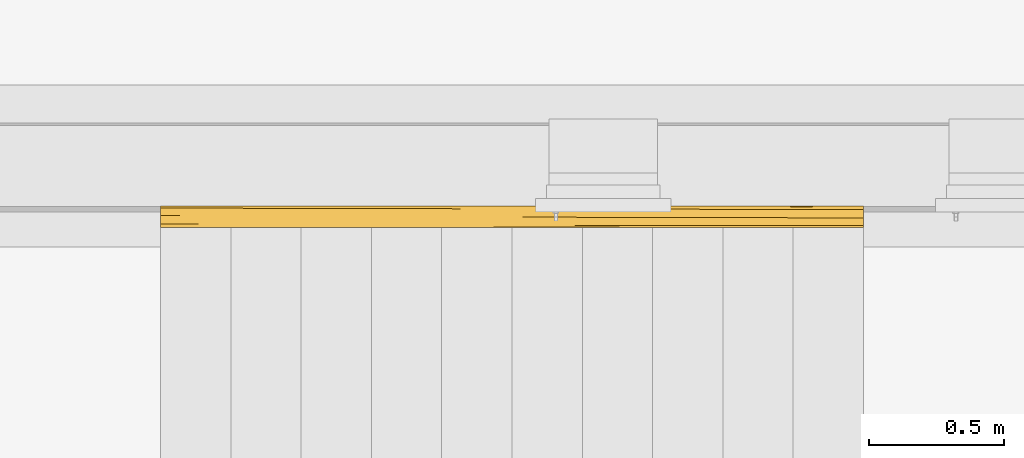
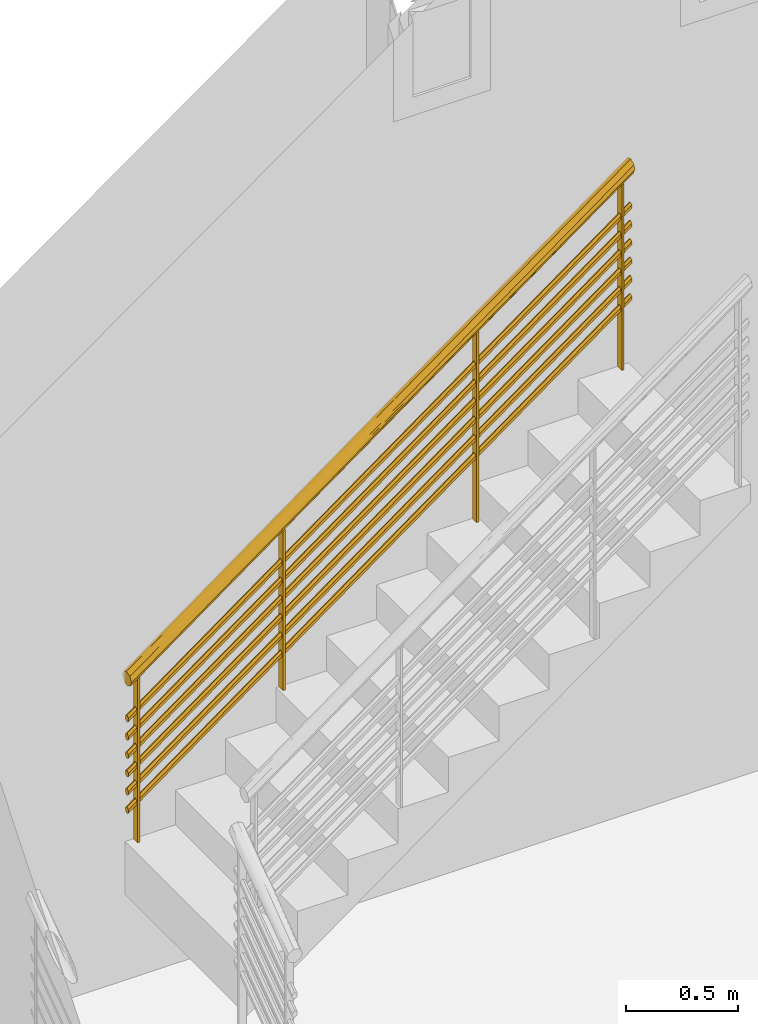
# One storey, part 18 of 20: 1 railing, 1 element without a shape of its own.
"""IFC2X3 building model written with IfcOpenShell, lengths in metres."""

import ifcopenshell
import ifcopenshell.guid

model = None  # the IFC model being written
_history = None  # IfcOwnerHistory: only IFC2X3 demands one
_inside = {}  # id of a spatial element -> (the spatial element, [elements in it])
_under = {}  # id of a project, library or spatial element -> (it, [spatial elements below it])
_declared = {}  # id of a project -> (the project, [libraries it declares])
_typed = {}  # id of a type object -> (the type object, [elements of that type])
_made_of = {}  # id of a material, layer set ... -> (it, [elements and type objects made of it])


def new_model(schema):
    """Start an empty IFC model of exactly this schema.

    Asked for "IFC4X3", IfcOpenShell would pick the latest addendum, in which some entities
    have other attributes; the version numbers below select the first issue.
    IFC2X3 requires an IfcOwnerHistory on every rooted entity: one is made here for all.
    """
    global model, _history
    if schema == "IFC4X3":
        model = ifcopenshell.file(schema_version=(4, 3, 0, 0))
    else:
        model = ifcopenshell.file(schema=schema)
    _inside.clear()
    _under.clear()
    _declared.clear()
    _typed.clear()
    _made_of.clear()
    _history = None
    if model.schema == "IFC2X3":
        org = make("IfcOrganization", Name="unknown")
        user = make(
            "IfcPersonAndOrganization",
            ThePerson=make("IfcPerson", FamilyName="unknown"),
            TheOrganization=org,
        )
        app = make(
            "IfcApplication",
            ApplicationDeveloper=org,
            Version="unknown",
            ApplicationFullName="unknown",
            ApplicationIdentifier="unknown",
        )
        _history = make(
            "IfcOwnerHistory",
            OwningUser=user,
            OwningApplication=app,
            ChangeAction="ADDED",
            CreationDate=0,
        )
    return model


def make(cls, **values):
    """One entity of the class cls with the attributes given. An attribute that is None is left unset."""
    return model.create_entity(
        cls, **{name: value for name, value in values.items() if value is not None}
    )


def entity(cls, *values):
    """Any entity or typed value of the class cls, its attributes in the order of the schema. None: left unset."""
    e = model.create_entity(cls)
    for i, value in enumerate(values):
        if value is not None:
            e[i] = value
    return e


def rooted(cls, **values):
    """An entity with a GlobalId (a new one), such as an element, a storey or a relation."""
    return make(cls, GlobalId=ifcopenshell.guid.new(), OwnerHistory=_history, **values)


def si_unit(unit_type, name, prefix=None):
    """IfcSIUnit, for example si_unit("LENGTHUNIT", "METRE", prefix="MILLI")."""
    return make("IfcSIUnit", UnitType=unit_type, Prefix=prefix, Name=name)


def converted_unit(unit_type, name, factor, base, dimensions=None, offset=None):
    """IfcConversionBasedUnit, such as the inch: factor (a typed value) times the base unit."""
    return make(
        "IfcConversionBasedUnit"
        if offset is None
        else "IfcConversionBasedUnitWithOffset",
        ConversionOffset=offset,
        Dimensions=None
        if dimensions is None
        else entity("IfcDimensionalExponents", *dimensions),
        UnitType=unit_type,
        Name=name,
        ConversionFactor=make(
            "IfcMeasureWithUnit", ValueComponent=factor, UnitComponent=base
        ),
    )


def derived_unit(unit_type, elements):
    """IfcDerivedUnit: a product of units, each with its exponent."""
    return make(
        "IfcDerivedUnit",
        Elements=[
            make("IfcDerivedUnitElement", Unit=unit, Exponent=power)
            for unit, power in elements
        ],
        UnitType=unit_type,
    )


def assignment(units):
    """IfcUnitAssignment: the units of a project."""
    return None if units is None else make("IfcUnitAssignment", Units=units)


def point(xyz):
    """IfcCartesianPoint."""
    return None if xyz is None else make("IfcCartesianPoint", Coordinates=xyz)


def direction(xyz):
    """IfcDirection."""
    return None if xyz is None else make("IfcDirection", DirectionRatios=xyz)


def frame(location, z_axis=None, x_axis=None):
    """IfcAxis2Placement3D, a coordinate frame: its origin and axes. An axis left out is left unset."""
    return make(
        "IfcAxis2Placement3D",
        Location=point(location),
        Axis=direction(z_axis),
        RefDirection=direction(x_axis),
    )


def origin():
    """The frame at (0, 0, 0) with its axes left unset."""
    return frame((0.0, 0.0, 0.0))


def place(relative_to, where):
    """IfcLocalPlacement: puts the frame where relative to a parent placement (None: the world)."""
    return make(
        "IfcLocalPlacement", PlacementRelTo=relative_to, RelativePlacement=where
    )


def context(
    kind, dimensions, precision=None, world=None, true_north=None, identifier=None
):
    """IfcGeometricRepresentationContext, for example the 3D "Model" context."""
    return make(
        "IfcGeometricRepresentationContext",
        ContextIdentifier=identifier,
        ContextType=kind,
        CoordinateSpaceDimension=dimensions,
        Precision=precision,
        WorldCoordinateSystem=world,
        TrueNorth=true_north,
    )


def subcontext(parent, identifier, kind, view, scale=None):
    """IfcGeometricRepresentationSubContext, for example "Body" below "Model"."""
    return make(
        "IfcGeometricRepresentationSubContext",
        ContextIdentifier=identifier,
        ContextType=kind,
        ParentContext=parent,
        TargetScale=scale,
        TargetView=view,
    )


def project(units=None, contexts=None):
    """IfcProject with its units and contexts."""
    return rooted(
        "IfcProject",
        Name="project",
        RepresentationContexts=contexts,
        UnitsInContext=assignment(units),
    )


def spatial(cls, under=None, at=None, **own):
    """A site, building, storey or space (cls), placed at a placement, below another one or the project."""
    s = rooted(cls, ObjectPlacement=at, **own)
    if under is not None:
        _under.setdefault(under.id(), (under, []))[1].append(s)
    return s


def faces_of(points, faces, orient=None, outer=None):
    """IfcFace entities. A face is a list of loops; a loop is a list of indices into points, from 0.

    orient and outer hold one flag for each loop. By default every Orientation is true, the
    first loop of a face is its IfcFaceOuterBound and the others are IfcFaceBound.
    """
    made = []
    for i, loops in enumerate(faces):
        bounds = []
        for j, loop in enumerate(loops):
            is_outer = j == 0 if outer is None else outer[i][j]
            bounds.append(
                make(
                    "IfcFaceOuterBound" if is_outer else "IfcFaceBound",
                    Bound=make("IfcPolyLoop", Polygon=[points[k] for k in loop]),
                    Orientation=True if orient is None else orient[i][j],
                )
            )
        made.append(make("IfcFace", Bounds=bounds))
    return made


def faceted_brep(points, faces, orient=None, outer=None, voids=None):
    """IfcFacetedBrep: a solid bounded by flat faces; with voids (closed shells), ...WithVoids."""
    shared = [point(p) for p in points]
    hull = make("IfcClosedShell", CfsFaces=faces_of(shared, faces, orient, outer))
    if voids is None:
        return make("IfcFacetedBrep", Outer=hull)
    return make(
        "IfcFacetedBrepWithVoids",
        Outer=hull,
        Voids=[
            make(cls, CfsFaces=faces_of(shared, fs, o, b)) for cls, fs, o, b in voids
        ],
    )


def shape(context_of_items, identifier, shape_type, items):
    """IfcShapeRepresentation: the items that make up one representation, for example the "Body"."""
    return make(
        "IfcShapeRepresentation",
        ContextOfItems=context_of_items,
        RepresentationIdentifier=identifier,
        RepresentationType=shape_type,
        Items=items,
    )


def made_of(thing, what):
    """Note that an element or type object is made of a material, layer set ...; save() writes the relation."""
    if what is not None:
        _made_of.setdefault(what.id(), (what, []))[1].append(thing)
    return thing


def element(
    cls,
    number,
    at=None,
    inside=None,
    cuts=None,
    type_object=None,
    material=None,
    context=None,
    identifier="Body",
    shape_type=None,
    held_by="IfcProductDefinitionShape",
    body=None,
    shapes=None,
    **own,
):
    """One element of the class cls, such as IfcWall. Its Tag is "e" and its number.

    at: its placement. inside: the storey or other place that contains it. cuts: it is an
    opening in that element (IfcRelVoidsElement). A single representation is given by context,
    identifier, shape_type and body (its items); several are given by shapes. held_by: the class
    of the entity that holds the representations. save() writes the other relations.
    """
    e = rooted(cls, Tag="e%d" % number, ObjectPlacement=at, **own)
    if body is not None:
        shapes = [shape(context, identifier, shape_type, body)]
    if shapes is not None:
        e.Representation = make(held_by, Representations=shapes)
    if inside is not None:
        _inside.setdefault(inside.id(), (inside, []))[1].append(e)
    if cuts is not None:
        rooted(
            "IfcRelVoidsElement", RelatingBuildingElement=cuts, RelatedOpeningElement=e
        )
    if type_object is not None:
        _typed.setdefault(type_object.id(), (type_object, []))[1].append(e)
    return made_of(e, material)


def aggregate(whole, parts):
    """IfcRelAggregates: a whole, such as a stair, and the parts it consists of."""
    return rooted("IfcRelAggregates", RelatingObject=whole, RelatedObjects=parts)


def save(model, path):
    """Write the relations noted so far, then the file.

    IfcRelAggregates (storeys below a building ...), IfcRelContainedInSpatialStructure (elements
    in a storey), IfcRelDefinesByType, IfcRelAssociatesMaterial and IfcRelDeclares: one each for
    every whole, place, type object, material and project.
    """
    for whole, parts in _under.values():
        aggregate(whole, parts)
    for where, things in _inside.values():
        rooted(
            "IfcRelContainedInSpatialStructure",
            RelatedElements=things,
            RelatingStructure=where,
        )
    for kind, things in _typed.values():
        rooted("IfcRelDefinesByType", RelatedObjects=things, RelatingType=kind)
    for what, things in _made_of.values():
        rooted("IfcRelAssociatesMaterial", RelatedObjects=things, RelatingMaterial=what)
    for by, libraries in _declared.values():
        rooted("IfcRelDeclares", RelatingContext=by, RelatedDefinitions=libraries)
    model.write(path)


model = new_model("IFC2X3")

# Units and contexts
model_context = context("Model", 3, precision=1e-05, world=origin(), true_north=direction((6.12303176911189e-17, 1.0)))
body_context = subcontext(model_context, "Body", "Model", "MODEL_VIEW")
ifc_project = project(units=[si_unit("LENGTHUNIT", "METRE"), si_unit("AREAUNIT", "SQUARE_METRE"), si_unit("VOLUMEUNIT", "CUBIC_METRE"), converted_unit("PLANEANGLEUNIT", "DEGREE", entity("IfcRatioMeasure", 0.0174532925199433), si_unit("PLANEANGLEUNIT", "RADIAN"), dimensions=[0, 0, 0, 0, 0, 0, 0]), si_unit("MASSUNIT", "GRAM", prefix="KILO"), derived_unit("MASSDENSITYUNIT", [(si_unit("MASSUNIT", "GRAM", prefix="KILO"), 1), (si_unit("LENGTHUNIT", "METRE"), -3)]), derived_unit("MOMENTOFINERTIAUNIT", [(si_unit("LENGTHUNIT", "METRE"), 4)]), si_unit("TIMEUNIT", "SECOND"), si_unit("FREQUENCYUNIT", "HERTZ"), si_unit("THERMODYNAMICTEMPERATUREUNIT", "DEGREE_CELSIUS"), derived_unit("THERMALTRANSMITTANCEUNIT", [(si_unit("MASSUNIT", "GRAM", prefix="KILO"), 1), (si_unit("THERMODYNAMICTEMPERATUREUNIT", "KELVIN"), -1), (si_unit("TIMEUNIT", "SECOND"), -3)]), derived_unit("VOLUMETRICFLOWRATEUNIT", [(si_unit("LENGTHUNIT", "METRE"), 3), (si_unit("TIMEUNIT", "SECOND"), -1)]), si_unit("ELECTRICCURRENTUNIT", "AMPERE"), si_unit("ELECTRICVOLTAGEUNIT", "VOLT"), si_unit("POWERUNIT", "WATT"), si_unit("FORCEUNIT", "NEWTON", prefix="KILO"), si_unit("ILLUMINANCEUNIT", "LUX"), si_unit("LUMINOUSFLUXUNIT", "LUMEN"), si_unit("LUMINOUSINTENSITYUNIT", "CANDELA"), derived_unit("USERDEFINED", [(si_unit("MASSUNIT", "GRAM", prefix="KILO"), -1), (si_unit("LENGTHUNIT", "METRE"), -2), (si_unit("TIMEUNIT", "SECOND"), 3), (si_unit("LUMINOUSFLUXUNIT", "LUMEN"), 1)]), derived_unit("LINEARVELOCITYUNIT", [(si_unit("LENGTHUNIT", "METRE"), 1), (si_unit("TIMEUNIT", "SECOND"), -1)]), si_unit("PRESSUREUNIT", "PASCAL"), derived_unit("USERDEFINED", [(si_unit("LENGTHUNIT", "METRE"), -2), (si_unit("MASSUNIT", "GRAM", prefix="KILO"), 1), (si_unit("TIMEUNIT", "SECOND"), -2)]), derived_unit("LINEARFORCEUNIT", [(si_unit("MASSUNIT", "GRAM", prefix="KILO"), 1), (si_unit("LENGTHUNIT", "METRE"), 1), (si_unit("TIMEUNIT", "SECOND"), -2), (si_unit("LENGTHUNIT", "METRE"), -1)]), derived_unit("PLANARFORCEUNIT", [(si_unit("MASSUNIT", "GRAM", prefix="KILO"), 1), (si_unit("LENGTHUNIT", "METRE"), 1), (si_unit("TIMEUNIT", "SECOND"), -2), (si_unit("LENGTHUNIT", "METRE"), -2)])], contexts=[model_context])

# Site, building, storey
site_placement = place(None, origin())
site = spatial("IfcSite", under=ifc_project, at=site_placement, Name="Surface", CompositionType="ELEMENT")
building_placement = place(site_placement, origin())
building = spatial("IfcBuilding", under=site, at=building_placement, CompositionType="ELEMENT")
storey_placement = place(building_placement, origin())
storey = spatial("IfcBuildingStorey", under=building, at=storey_placement, Name="Niveau rdc", CompositionType="ELEMENT", Elevation=-1.94916083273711e-14)

# Stair, railing
stair_placement = place(storey_placement, origin())
stair = element("IfcStair", 1, at=stair_placement, inside=storey, Name="Escalier coulé sur place:Escalier", ObjectType="Escalier coulé sur place:Monobloc", ShapeType="NOTDEFINED")
railing_placement = place(stair_placement, frame((2.97197986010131, 6.95024310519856, 0.757142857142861)))
railing = element("IfcRailing", 2, at=railing_placement, Name="Garde-corps:Type Bateau", ObjectType="Garde-corps:Type Bateau", PredefinedType="NOTDEFINED", context=body_context, shape_type="Brep", body=[
    faceted_brep([(0.793999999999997, 0.02159527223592, 1.44511960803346), (0.805999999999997, 0.02159527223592, 1.44511960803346), (0.805999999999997, 0.0615952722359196, 1.44511960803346), (0.793999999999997, 0.0615952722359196, 1.44511960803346), (0.793999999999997, 0.02159527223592, 0.567857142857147), (0.793999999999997, 0.0615952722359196, 0.567857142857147), (0.805999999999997, 0.0615952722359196, 0.567857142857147), (0.805999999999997, 0.02159527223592, 0.567857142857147)], [[[0, 1, 2, 3]], [[4, 5, 6, 7]], [[1, 0, 4, 7]], [[2, 1, 7, 6]], [[3, 2, 6, 5]], [[0, 3, 5, 4]]]),
    faceted_brep([(1.794, 0.0215952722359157, 2.17314158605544), (1.806, 0.0215952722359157, 2.17314158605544), (1.806, 0.0615952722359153, 2.17314158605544), (1.794, 0.0615952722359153, 2.17314158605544), (1.794, 0.0215952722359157, 1.13571428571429), (1.794, 0.0615952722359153, 1.13571428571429), (1.806, 0.0615952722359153, 1.13571428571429), (1.806, 0.0215952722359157, 1.13571428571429)], [[[0, 1, 2, 3]], [[4, 5, 6, 7]], [[1, 0, 4, 7]], [[2, 1, 7, 6]], [[3, 2, 6, 5]], [[0, 3, 5, 4]]]),
    faceted_brep([(0.0439999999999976, 0.0215952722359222, 0.899103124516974), (0.0559999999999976, 0.0215952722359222, 0.899103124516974), (0.0559999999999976, 0.0615952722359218, 0.899103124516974), (0.0439999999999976, 0.0615952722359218, 0.899103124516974), (0.0439999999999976, 0.0215952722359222, 0.0), (0.0439999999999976, 0.0615952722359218, 0.0), (0.0559999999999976, 0.0615952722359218, 0.0), (0.0559999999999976, 0.0215952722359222, 0.0)], [[[0, 1, 2, 3]], [[4, 5, 6, 7]], [[1, 0, 4, 7]], [[2, 1, 7, 6]], [[3, 2, 6, 5]], [[0, 3, 5, 4]]]),
    faceted_brep([(2.544, 0.0215952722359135, 2.71915806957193), (2.556, 0.0215952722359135, 2.71915806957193), (2.556, 0.0615952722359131, 2.71915806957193), (2.544, 0.0615952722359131, 2.71915806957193), (2.544, 0.0215952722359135, 1.70357142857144), (2.544, 0.0615952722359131, 1.70357142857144), (2.556, 0.0615952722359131, 1.70357142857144), (2.556, 0.0215952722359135, 1.70357142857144)], [[[0, 1, 2, 3]], [[4, 5, 6, 7]], [[1, 0, 4, 7]], [[2, 1, 7, 6]], [[3, 2, 6, 5]], [[0, 3, 5, 4]]]),
    faceted_brep([(2.6, 0.0286048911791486, 2.56502603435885), (2.6, 0.0318524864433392, 2.56270677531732), (2.6, 0.035100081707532, 2.5603875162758), (2.6, 0.0383476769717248, 2.55806825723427), (2.6, 0.0415952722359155, 2.55574899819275), (2.6, 0.0448428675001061, 2.55806825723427), (2.6, 0.0480904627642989, 2.5603875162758), (2.6, 0.0513380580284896, 2.56270677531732), (2.6, 0.0545856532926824, 2.56502603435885), (2.6, 0.0545856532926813, 2.5696645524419), (2.6, 0.0545856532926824, 2.57430307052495), (2.6, 0.0545856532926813, 2.578941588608), (2.6, 0.0545856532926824, 2.58358010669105), (2.6, 0.0513380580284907, 2.58589936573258), (2.6, 0.0480904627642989, 2.58821862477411), (2.6, 0.0444889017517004, 2.59079066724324), (2.6, 0.0415952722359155, 2.59285714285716), (2.6, 0.0387016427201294, 2.59079066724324), (2.6, 0.0358080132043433, 2.58872419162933), (2.6, 0.032206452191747, 2.58615214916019), (2.6, 0.0286048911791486, 2.58358010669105), (2.6, 0.0286048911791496, 2.578941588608), (2.6, 0.0286048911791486, 2.57430307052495), (2.6, 0.0286048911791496, 2.5696645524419), (0.0, 0.0286048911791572, 0.672168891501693), (0.0, 0.0286048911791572, 0.676807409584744), (0.0, 0.0286048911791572, 0.681445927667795), (0.0, 0.0286048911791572, 0.686084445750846), (0.0, 0.0286048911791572, 0.690722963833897), (0.0, 0.0318524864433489, 0.693042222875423), (0.0, 0.0351000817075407, 0.695361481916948), (0.0, 0.0383476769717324, 0.697680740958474), (0.0, 0.0415952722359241, 0.7), (0.0, 0.0448428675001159, 0.697680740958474), (0.0, 0.0480904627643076, 0.695361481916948), (0.0, 0.0513380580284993, 0.693042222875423), (0.0, 0.054585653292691, 0.690722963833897), (0.0, 0.054585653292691, 0.686084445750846), (0.0, 0.054585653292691, 0.681445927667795), (0.0, 0.054585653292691, 0.676807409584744), (0.0, 0.054585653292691, 0.672168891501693), (0.0, 0.0509840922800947, 0.669596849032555), (0.0, 0.0473825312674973, 0.667024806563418), (0.0, 0.0444889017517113, 0.664958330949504), (0.0, 0.0415952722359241, 0.66289185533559), (0.0, 0.0387016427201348, 0.664958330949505), (0.0, 0.0351000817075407, 0.667530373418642), (0.0, 0.0318524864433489, 0.669849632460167)], [[[0, 1, 2, 3, 4, 5, 6, 7, 8, 9, 10, 11, 12, 13, 14, 15, 16, 17, 18, 19, 20, 21, 22, 23]], [[24, 25, 26, 27, 28, 29, 30, 31, 32, 33, 34, 35, 36, 37, 38, 39, 40, 41, 42, 43, 44, 45, 46, 47]], [[6, 5, 4, 44, 43, 42, 41, 40, 8, 7]], [[14, 13, 12, 36, 35, 34, 33, 32, 16, 15]], [[11, 10, 9, 8, 40, 39, 38, 37, 36, 12]], [[18, 17, 16, 32, 31, 30, 29, 28, 20, 19]], [[22, 21, 20, 28, 27, 26, 25, 24, 0, 23]], [[45, 44, 4, 3, 2, 1, 0, 24, 47, 46]]]),
    faceted_brep([(2.6, 0.0286048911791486, 2.46502603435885), (2.6, 0.0318524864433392, 2.46270677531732), (2.6, 0.035100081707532, 2.4603875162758), (2.6, 0.0383476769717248, 2.45806825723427), (2.6, 0.0415952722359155, 2.45574899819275), (2.6, 0.0448428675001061, 2.45806825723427), (2.6, 0.0480904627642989, 2.4603875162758), (2.6, 0.0513380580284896, 2.46270677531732), (2.6, 0.0545856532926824, 2.46502603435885), (2.6, 0.0545856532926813, 2.4696645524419), (2.6, 0.0545856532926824, 2.47430307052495), (2.6, 0.0545856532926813, 2.478941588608), (2.6, 0.0545856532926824, 2.48358010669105), (2.6, 0.0513380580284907, 2.48589936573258), (2.6, 0.0480904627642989, 2.48821862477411), (2.6, 0.0444889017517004, 2.49079066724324), (2.6, 0.0415952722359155, 2.49285714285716), (2.6, 0.0387016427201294, 2.49079066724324), (2.6, 0.0358080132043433, 2.48872419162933), (2.6, 0.032206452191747, 2.48615214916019), (2.6, 0.0286048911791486, 2.48358010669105), (2.6, 0.0286048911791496, 2.478941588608), (2.6, 0.0286048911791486, 2.47430307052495), (2.6, 0.0286048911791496, 2.4696645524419), (0.0, 0.0286048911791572, 0.572168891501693), (0.0, 0.0286048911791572, 0.576807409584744), (0.0, 0.0286048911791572, 0.581445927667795), (0.0, 0.0286048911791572, 0.586084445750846), (0.0, 0.0286048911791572, 0.590722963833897), (0.0, 0.0318524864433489, 0.593042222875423), (0.0, 0.0351000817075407, 0.595361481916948), (0.0, 0.0383476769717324, 0.597680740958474), (0.0, 0.0415952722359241, 0.6), (0.0, 0.0448428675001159, 0.597680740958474), (0.0, 0.0480904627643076, 0.595361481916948), (0.0, 0.0513380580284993, 0.593042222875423), (0.0, 0.054585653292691, 0.590722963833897), (0.0, 0.054585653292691, 0.586084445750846), (0.0, 0.054585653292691, 0.581445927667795), (0.0, 0.054585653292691, 0.576807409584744), (0.0, 0.054585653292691, 0.572168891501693), (0.0, 0.0509840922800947, 0.569596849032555), (0.0, 0.0473825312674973, 0.567024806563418), (0.0, 0.0444889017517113, 0.564958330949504), (0.0, 0.0415952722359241, 0.56289185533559), (0.0, 0.0387016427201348, 0.564958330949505), (0.0, 0.0351000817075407, 0.567530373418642), (0.0, 0.0318524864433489, 0.569849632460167)], [[[0, 1, 2, 3, 4, 5, 6, 7, 8, 9, 10, 11, 12, 13, 14, 15, 16, 17, 18, 19, 20, 21, 22, 23]], [[24, 25, 26, 27, 28, 29, 30, 31, 32, 33, 34, 35, 36, 37, 38, 39, 40, 41, 42, 43, 44, 45, 46, 47]], [[6, 5, 4, 44, 43, 42, 41, 40, 8, 7]], [[14, 13, 12, 36, 35, 34, 33, 32, 16, 15]], [[11, 10, 9, 8, 40, 39, 38, 37, 36, 12]], [[18, 17, 16, 32, 31, 30, 29, 28, 20, 19]], [[22, 21, 20, 28, 27, 26, 25, 24, 0, 23]], [[45, 44, 4, 3, 2, 1, 0, 24, 47, 46]]]),
    faceted_brep([(2.6, 0.0286048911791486, 2.36502603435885), (2.6, 0.0318524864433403, 2.36270677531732), (2.6, 0.035100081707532, 2.3603875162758), (2.6, 0.0383476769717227, 2.35806825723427), (2.6, 0.0415952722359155, 2.35574899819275), (2.6, 0.0448428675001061, 2.35806825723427), (2.6, 0.0480904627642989, 2.3603875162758), (2.6, 0.0513380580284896, 2.36270677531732), (2.6, 0.0545856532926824, 2.36502603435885), (2.6, 0.0545856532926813, 2.3696645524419), (2.6, 0.0545856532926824, 2.37430307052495), (2.6, 0.0545856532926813, 2.378941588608), (2.6, 0.0545856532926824, 2.38358010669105), (2.6, 0.0513380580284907, 2.38589936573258), (2.6, 0.0480904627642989, 2.38821862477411), (2.6, 0.0444889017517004, 2.39079066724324), (2.6, 0.0415952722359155, 2.39285714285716), (2.6, 0.0387016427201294, 2.39079066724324), (2.6, 0.0358080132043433, 2.38872419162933), (2.6, 0.0322064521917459, 2.38615214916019), (2.6, 0.0286048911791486, 2.38358010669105), (2.6, 0.0286048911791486, 2.378941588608), (2.6, 0.0286048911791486, 2.37430307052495), (2.6, 0.0286048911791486, 2.3696645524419), (0.0, 0.0286048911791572, 0.472168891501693), (0.0, 0.0286048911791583, 0.476807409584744), (0.0, 0.0286048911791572, 0.481445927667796), (0.0, 0.0286048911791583, 0.486084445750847), (0.0, 0.0286048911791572, 0.490722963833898), (0.0, 0.0318524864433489, 0.493042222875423), (0.0, 0.0351000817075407, 0.495361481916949), (0.0, 0.0383476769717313, 0.497680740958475), (0.0, 0.0415952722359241, 0.5), (0.0, 0.0448428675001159, 0.497680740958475), (0.0, 0.0480904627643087, 0.495361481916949), (0.0, 0.0513380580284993, 0.493042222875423), (0.0, 0.054585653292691, 0.490722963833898), (0.0, 0.054585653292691, 0.486084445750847), (0.0, 0.054585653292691, 0.481445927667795), (0.0, 0.054585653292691, 0.476807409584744), (0.0, 0.054585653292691, 0.472168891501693), (0.0, 0.0509840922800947, 0.469596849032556), (0.0, 0.0473825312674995, 0.467024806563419), (0.0, 0.0444889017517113, 0.464958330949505), (0.0, 0.0415952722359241, 0.462891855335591), (0.0, 0.0387016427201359, 0.464958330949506), (0.0, 0.0351000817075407, 0.467530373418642), (0.0, 0.0318524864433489, 0.469849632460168)], [[[0, 1, 2, 3, 4, 5, 6, 7, 8, 9, 10, 11, 12, 13, 14, 15, 16, 17, 18, 19, 20, 21, 22, 23]], [[24, 25, 26, 27, 28, 29, 30, 31, 32, 33, 34, 35, 36, 37, 38, 39, 40, 41, 42, 43, 44, 45, 46, 47]], [[6, 5, 4, 44, 43, 42, 41, 40, 8, 7]], [[14, 13, 12, 36, 35, 34, 33, 32, 16, 15]], [[11, 10, 9, 8, 40, 39, 38, 37, 36, 12]], [[18, 17, 16, 32, 31, 30, 29, 28, 20, 19]], [[22, 21, 20, 28, 27, 26, 25, 24, 0, 23]], [[45, 44, 4, 3, 2, 1, 0, 24, 47, 46]]]),
    faceted_brep([(2.6, 0.0286048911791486, 2.26502603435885), (2.6, 0.0318524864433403, 2.26270677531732), (2.6, 0.035100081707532, 2.2603875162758), (2.6, 0.0383476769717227, 2.25806825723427), (2.6, 0.0415952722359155, 2.25574899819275), (2.6, 0.0448428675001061, 2.25806825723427), (2.6, 0.0480904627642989, 2.2603875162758), (2.6, 0.0513380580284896, 2.26270677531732), (2.6, 0.0545856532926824, 2.26502603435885), (2.6, 0.0545856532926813, 2.2696645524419), (2.6, 0.0545856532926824, 2.27430307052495), (2.6, 0.0545856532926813, 2.278941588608), (2.6, 0.0545856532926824, 2.28358010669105), (2.6, 0.0513380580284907, 2.28589936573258), (2.6, 0.0480904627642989, 2.28821862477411), (2.6, 0.0444889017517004, 2.29079066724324), (2.6, 0.0415952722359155, 2.29285714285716), (2.6, 0.0387016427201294, 2.29079066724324), (2.6, 0.0358080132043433, 2.28872419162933), (2.6, 0.0322064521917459, 2.28615214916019), (2.6, 0.0286048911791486, 2.28358010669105), (2.6, 0.0286048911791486, 2.278941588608), (2.6, 0.0286048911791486, 2.27430307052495), (2.6, 0.0286048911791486, 2.2696645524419), (0.0, 0.0286048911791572, 0.372168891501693), (0.0, 0.0286048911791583, 0.376807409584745), (0.0, 0.0286048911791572, 0.381445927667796), (0.0, 0.0286048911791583, 0.386084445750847), (0.0, 0.0286048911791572, 0.390722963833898), (0.0, 0.0318524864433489, 0.393042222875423), (0.0, 0.0351000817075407, 0.395361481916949), (0.0, 0.0383476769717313, 0.397680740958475), (0.0, 0.0415952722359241, 0.4), (0.0, 0.0448428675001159, 0.397680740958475), (0.0, 0.0480904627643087, 0.395361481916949), (0.0, 0.0513380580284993, 0.393042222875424), (0.0, 0.054585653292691, 0.390722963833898), (0.0, 0.054585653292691, 0.386084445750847), (0.0, 0.054585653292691, 0.381445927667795), (0.0, 0.054585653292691, 0.376807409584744), (0.0, 0.054585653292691, 0.372168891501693), (0.0, 0.0509840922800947, 0.369596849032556), (0.0, 0.0473825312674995, 0.367024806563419), (0.0, 0.0444889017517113, 0.364958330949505), (0.0, 0.0415952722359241, 0.362891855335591), (0.0, 0.0387016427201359, 0.364958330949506), (0.0, 0.0351000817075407, 0.367530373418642), (0.0, 0.0318524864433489, 0.369849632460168)], [[[0, 1, 2, 3, 4, 5, 6, 7, 8, 9, 10, 11, 12, 13, 14, 15, 16, 17, 18, 19, 20, 21, 22, 23]], [[24, 25, 26, 27, 28, 29, 30, 31, 32, 33, 34, 35, 36, 37, 38, 39, 40, 41, 42, 43, 44, 45, 46, 47]], [[6, 5, 4, 44, 43, 42, 41, 40, 8, 7]], [[14, 13, 12, 36, 35, 34, 33, 32, 16, 15]], [[11, 10, 9, 8, 40, 39, 38, 37, 36, 12]], [[18, 17, 16, 32, 31, 30, 29, 28, 20, 19]], [[22, 21, 20, 28, 27, 26, 25, 24, 0, 23]], [[45, 44, 4, 3, 2, 1, 0, 24, 47, 46]]]),
    faceted_brep([(2.6, 0.0286048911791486, 2.16502603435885), (2.6, 0.0318524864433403, 2.16270677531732), (2.6, 0.035100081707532, 2.1603875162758), (2.6, 0.0383476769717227, 2.15806825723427), (2.6, 0.0415952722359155, 2.15574899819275), (2.6, 0.0448428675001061, 2.15806825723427), (2.6, 0.0480904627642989, 2.1603875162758), (2.6, 0.0513380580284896, 2.16270677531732), (2.6, 0.0545856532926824, 2.16502603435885), (2.6, 0.0545856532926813, 2.1696645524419), (2.6, 0.0545856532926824, 2.17430307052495), (2.6, 0.0545856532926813, 2.178941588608), (2.6, 0.0545856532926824, 2.18358010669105), (2.6, 0.0513380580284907, 2.18589936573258), (2.6, 0.0480904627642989, 2.18821862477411), (2.6, 0.0444889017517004, 2.19079066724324), (2.6, 0.0415952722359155, 2.19285714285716), (2.6, 0.0387016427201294, 2.19079066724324), (2.6, 0.0358080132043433, 2.18872419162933), (2.6, 0.0322064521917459, 2.18615214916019), (2.6, 0.0286048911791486, 2.18358010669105), (2.6, 0.0286048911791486, 2.178941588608), (2.6, 0.0286048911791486, 2.17430307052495), (2.6, 0.0286048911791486, 2.1696645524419), (0.0, 0.0286048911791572, 0.272168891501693), (0.0, 0.0286048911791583, 0.276807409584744), (0.0, 0.0286048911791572, 0.281445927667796), (0.0, 0.0286048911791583, 0.286084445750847), (0.0, 0.0286048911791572, 0.290722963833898), (0.0, 0.0318524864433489, 0.293042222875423), (0.0, 0.0351000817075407, 0.295361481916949), (0.0, 0.0383476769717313, 0.297680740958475), (0.0, 0.0415952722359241, 0.3), (0.0, 0.0448428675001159, 0.297680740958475), (0.0, 0.0480904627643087, 0.295361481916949), (0.0, 0.0513380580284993, 0.293042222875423), (0.0, 0.054585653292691, 0.290722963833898), (0.0, 0.054585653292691, 0.286084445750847), (0.0, 0.054585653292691, 0.281445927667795), (0.0, 0.054585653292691, 0.276807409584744), (0.0, 0.054585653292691, 0.272168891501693), (0.0, 0.0509840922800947, 0.269596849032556), (0.0, 0.0473825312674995, 0.267024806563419), (0.0, 0.0444889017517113, 0.264958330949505), (0.0, 0.0415952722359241, 0.262891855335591), (0.0, 0.0387016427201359, 0.264958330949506), (0.0, 0.0351000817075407, 0.267530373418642), (0.0, 0.0318524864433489, 0.269849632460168)], [[[0, 1, 2, 3, 4, 5, 6, 7, 8, 9, 10, 11, 12, 13, 14, 15, 16, 17, 18, 19, 20, 21, 22, 23]], [[24, 25, 26, 27, 28, 29, 30, 31, 32, 33, 34, 35, 36, 37, 38, 39, 40, 41, 42, 43, 44, 45, 46, 47]], [[6, 5, 4, 44, 43, 42, 41, 40, 8, 7]], [[14, 13, 12, 36, 35, 34, 33, 32, 16, 15]], [[11, 10, 9, 8, 40, 39, 38, 37, 36, 12]], [[18, 17, 16, 32, 31, 30, 29, 28, 20, 19]], [[22, 21, 20, 28, 27, 26, 25, 24, 0, 23]], [[45, 44, 4, 3, 2, 1, 0, 24, 47, 46]]]),
    faceted_brep([(2.6, 0.0286048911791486, 2.06502603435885), (2.6, 0.0318524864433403, 2.06270677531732), (2.6, 0.035100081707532, 2.0603875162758), (2.6, 0.0383476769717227, 2.05806825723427), (2.6, 0.0415952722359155, 2.05574899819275), (2.6, 0.0448428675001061, 2.05806825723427), (2.6, 0.0480904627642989, 2.0603875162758), (2.6, 0.0513380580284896, 2.06270677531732), (2.6, 0.0545856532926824, 2.06502603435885), (2.6, 0.0545856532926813, 2.0696645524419), (2.6, 0.0545856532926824, 2.07430307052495), (2.6, 0.0545856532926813, 2.078941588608), (2.6, 0.0545856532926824, 2.08358010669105), (2.6, 0.0513380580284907, 2.08589936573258), (2.6, 0.0480904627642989, 2.08821862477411), (2.6, 0.0444889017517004, 2.09079066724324), (2.6, 0.0415952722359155, 2.09285714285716), (2.6, 0.0387016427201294, 2.09079066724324), (2.6, 0.0358080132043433, 2.08872419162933), (2.6, 0.0322064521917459, 2.08615214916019), (2.6, 0.0286048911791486, 2.08358010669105), (2.6, 0.0286048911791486, 2.078941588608), (2.6, 0.0286048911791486, 2.07430307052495), (2.6, 0.0286048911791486, 2.0696645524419), (0.0, 0.0286048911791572, 0.172168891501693), (0.0, 0.0286048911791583, 0.176807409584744), (0.0, 0.0286048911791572, 0.181445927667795), (0.0, 0.0286048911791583, 0.186084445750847), (0.0, 0.0286048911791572, 0.190722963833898), (0.0, 0.0318524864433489, 0.193042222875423), (0.0, 0.0351000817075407, 0.195361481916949), (0.0, 0.0383476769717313, 0.197680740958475), (0.0, 0.0415952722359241, 0.2), (0.0, 0.0448428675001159, 0.197680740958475), (0.0, 0.0480904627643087, 0.195361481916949), (0.0, 0.0513380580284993, 0.193042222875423), (0.0, 0.054585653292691, 0.190722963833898), (0.0, 0.054585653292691, 0.186084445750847), (0.0, 0.054585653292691, 0.181445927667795), (0.0, 0.054585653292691, 0.176807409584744), (0.0, 0.054585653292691, 0.172168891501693), (0.0, 0.0509840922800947, 0.169596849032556), (0.0, 0.0473825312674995, 0.167024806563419), (0.0, 0.0444889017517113, 0.164958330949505), (0.0, 0.0415952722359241, 0.162891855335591), (0.0, 0.0387016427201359, 0.164958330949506), (0.0, 0.0351000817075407, 0.167530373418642), (0.0, 0.0318524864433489, 0.169849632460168)], [[[0, 1, 2, 3, 4, 5, 6, 7, 8, 9, 10, 11, 12, 13, 14, 15, 16, 17, 18, 19, 20, 21, 22, 23]], [[24, 25, 26, 27, 28, 29, 30, 31, 32, 33, 34, 35, 36, 37, 38, 39, 40, 41, 42, 43, 44, 45, 46, 47]], [[6, 5, 4, 44, 43, 42, 41, 40, 8, 7]], [[14, 13, 12, 36, 35, 34, 33, 32, 16, 15]], [[11, 10, 9, 8, 40, 39, 38, 37, 36, 12]], [[18, 17, 16, 32, 31, 30, 29, 28, 20, 19]], [[22, 21, 20, 28, 27, 26, 25, 24, 0, 23]], [[45, 44, 4, 3, 2, 1, 0, 24, 47, 46]]]),
    faceted_brep([(0.0, 0.0148300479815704, 0.927576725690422), (0.0, 0.0303032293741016, 0.932240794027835), (0.0, 0.0457764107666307, 0.936904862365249), (0.0, 0.0598661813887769, 0.929358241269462), (0.0, 0.073955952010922, 0.921811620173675), (0.0, 0.0777756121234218, 0.910905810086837), (0.0, 0.0815952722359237, 0.9), (0.0, 0.0749778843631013, 0.886211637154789), (0.0, 0.068360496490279, 0.872423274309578), (0.0, 0.0528873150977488, 0.867759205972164), (0.0, 0.0451507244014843, 0.865427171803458), (0.0, 0.0374141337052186, 0.863095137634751), (0.0, 0.0233243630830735, 0.870641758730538), (0.0, 0.00923459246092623, 0.878188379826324), (0.0, 0.0054149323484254, 0.889094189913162), (0.0, 0.00159527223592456, 0.9), (0.0, 0.00821266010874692, 0.913788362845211), (2.6, 0.00821266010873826, 2.77906878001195), (2.6, 0.0148300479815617, 2.76528041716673), (2.6, 0.0303032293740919, 2.76061634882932), (2.6, 0.0457764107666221, 2.75595228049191), (2.6, 0.0598661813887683, 2.76349890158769), (2.6, 0.0739559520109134, 2.77104552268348), (2.6, 0.0777756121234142, 2.78195133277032), (2.6, 0.081595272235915, 2.79285714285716), (2.6, 0.0783872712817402, 2.79954151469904), (2.6, 0.0749778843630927, 2.80664550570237), (2.6, 0.0683604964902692, 2.82043386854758), (2.6, 0.0528873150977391, 2.82509793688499), (2.6, 0.0374141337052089, 2.82976200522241), (2.6, 0.0303692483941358, 2.82598869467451), (2.6, 0.0233243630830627, 2.82221538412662), (2.6, 0.00923459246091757, 2.81466876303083), (2.6, 0.00541493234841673, 2.80376295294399), (2.6, 0.0015952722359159, 2.79285714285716), (1.3046119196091, 0.078881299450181, 1.8363503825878), (1.36550573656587, 0.0567266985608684, 1.85976758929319), (1.38101750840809, 0.0663531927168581, 1.87626517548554), (1.08409295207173, 0.0739403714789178, 1.66741199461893), (1.027892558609, 0.0815952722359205, 1.6483283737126), (1.57210767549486, 0.0815952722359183, 2.04452893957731), (1.42558827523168, 0.0200740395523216, 1.90658020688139), (1.13636260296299, 0.0301947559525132, 1.69172791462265), (1.30065154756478, 0.0415845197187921, 1.80979476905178), (1.31383190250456, 0.0116906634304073, 1.83185378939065), (1.21445410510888, 0.00559717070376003, 1.7679705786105), (1.02789811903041, 0.00159527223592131, 1.6483324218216), (1.25063136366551, 0.00360537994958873, 1.82210262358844), (1.17317441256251, 0.00823615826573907, 1.77457295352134), (1.46206366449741, 0.0156189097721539, 1.99263297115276), (1.29941932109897, 0.0253416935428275, 1.87991235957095), (1.19065066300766, 0.0772494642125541, 1.78364120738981), (1.12573126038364, 0.0804958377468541, 1.72819750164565), (1.24935336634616, 0.0406156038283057, 1.84665372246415), (1.20733099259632, 0.0516459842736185, 1.81488112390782), (1.2687351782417, 0.0709152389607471, 1.84890915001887), (1.50287319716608, 0.061790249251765, 2.02615620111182)], [[[0, 1, 2, 3, 4, 5, 6, 7, 8, 9, 10, 11, 12, 13, 14, 15, 16]], [[17, 18, 19, 20, 21, 22, 23, 24, 25, 26, 27, 28, 29, 30, 31, 32, 33, 34]], [[35, 7, 6]], [[9, 8, 36, 10]], [[22, 37, 38]], [[37, 36, 8]], [[21, 36, 37]], [[35, 6, 39, 40]], [[41, 42, 19]], [[38, 7, 35]], [[19, 42, 43]], [[44, 41, 18]], [[13, 45, 14]], [[8, 38, 37]], [[44, 12, 41]], [[38, 8, 7]], [[11, 43, 42]], [[17, 34, 46]], [[35, 23, 22]], [[11, 10, 43]], [[40, 24, 23]], [[21, 37, 22]], [[36, 21, 20]], [[36, 20, 43]], [[36, 43, 10]], [[43, 20, 19]], [[42, 12, 11]], [[12, 42, 41]], [[13, 12, 44]], [[18, 41, 19]], [[46, 15, 14]], [[44, 18, 17]], [[17, 45, 44]], [[38, 35, 22]], [[45, 17, 46]], [[23, 35, 40]], [[44, 45, 13]], [[14, 45, 46]], [[16, 47, 48]], [[0, 48, 49]], [[49, 31, 50]], [[31, 30, 50]], [[51, 52, 5]], [[2, 53, 54]], [[55, 27, 26]], [[55, 51, 4]], [[26, 52, 51]], [[47, 16, 15]], [[55, 26, 51]], [[5, 4, 51]], [[25, 24, 40, 39]], [[56, 55, 3]], [[56, 3, 54]], [[50, 0, 49]], [[27, 55, 56]], [[52, 39, 6]], [[54, 53, 28]], [[55, 4, 3]], [[56, 28, 27]], [[28, 56, 54]], [[52, 6, 5]], [[29, 28, 53]], [[2, 54, 3]], [[30, 29, 53]], [[53, 2, 1]], [[1, 0, 50]], [[53, 50, 30]], [[1, 50, 53]], [[49, 32, 31]], [[32, 49, 48]], [[33, 48, 47]], [[16, 48, 0]], [[46, 34, 47, 15]], [[33, 32, 48]], [[33, 47, 34]], [[52, 25, 39]], [[25, 52, 26]]]),
])
aggregate(stair, [railing])

save(model, "model.ifc")
